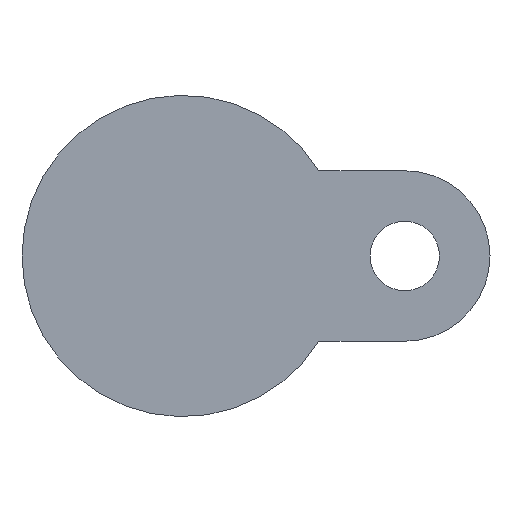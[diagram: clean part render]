
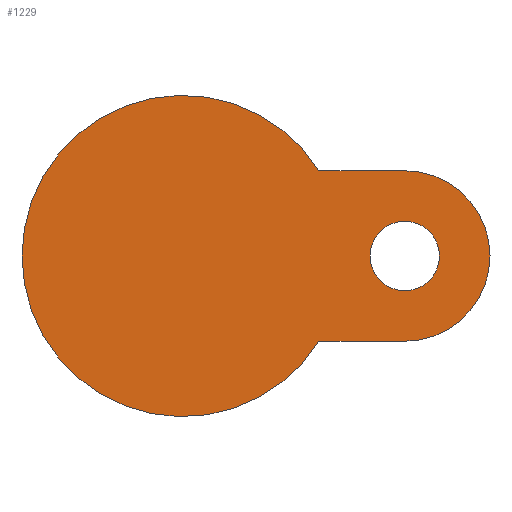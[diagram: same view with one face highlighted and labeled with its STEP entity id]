
A CAD part, front view. The second image highlights one B-rep face of the part: STEP entity #1229.
In plain terms, the highlighted planar face has unit normal (0, -1, 0).
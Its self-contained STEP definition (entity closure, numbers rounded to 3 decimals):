
#20 = CARTESIAN_POINT ( 'NONE',  ( 0., -23., 0. ) ) ;
#47 = DIRECTION ( 'NONE',  ( 0., 1., 0. ) ) ;
#65 = EDGE_CURVE ( 'NONE', #1249, #401, #1277, .T. ) ;
#73 = CARTESIAN_POINT ( 'NONE',  ( 56., -23., 0. ) ) ;
#81 = DIRECTION ( 'NONE',  ( 1., 0., 0. ) ) ;
#106 = DIRECTION ( 'NONE',  ( 1., 0., 0. ) ) ;
#141 = EDGE_CURVE ( 'NONE', #882, #200, #1300, .T. ) ;
#157 = CIRCLE ( 'NONE', #1010, 40.5 ) ;
#163 = CARTESIAN_POINT ( 'NONE',  ( 56., -23., 21.5 ) ) ;
#187 = EDGE_LOOP ( 'NONE', ( #277, #1259 ) ) ;
#189 = EDGE_LOOP ( 'NONE', ( #1325, #760, #1337, #1011 ) ) ;
#200 = VERTEX_POINT ( 'NONE', #286 ) ;
#245 = PLANE ( 'NONE',  #833 ) ;
#277 = ORIENTED_EDGE ( 'NONE', *, *, #980, .T. ) ;
#278 = DIRECTION ( 'NONE',  ( 0., -1., 0. ) ) ;
#286 = CARTESIAN_POINT ( 'NONE',  ( 47.25, -23., 0. ) ) ;
#336 = LINE ( 'NONE', #673, #359 ) ;
#352 = CARTESIAN_POINT ( 'NONE',  ( 30.5, -23., -21.5 ) ) ;
#353 = VECTOR ( 'NONE', #370, 1000. ) ;
#359 = VECTOR ( 'NONE', #81, 1000. ) ;
#370 = DIRECTION ( 'NONE',  ( -1., 0., 0. ) ) ;
#401 = VERTEX_POINT ( 'NONE', #866 ) ;
#402 = VERTEX_POINT ( 'NONE', #406 ) ;
#406 = CARTESIAN_POINT ( 'NONE',  ( 34.322, -23., 21.5 ) ) ;
#460 = AXIS2_PLACEMENT_3D ( 'NONE', #1413, #582, #727 ) ;
#528 = CARTESIAN_POINT ( 'NONE',  ( 56., -23., -21.5 ) ) ;
#582 = DIRECTION ( 'NONE',  ( 0., 1., 0. ) ) ;
#594 = DIRECTION ( 'NONE',  ( 0., -1., 0. ) ) ;
#673 = CARTESIAN_POINT ( 'NONE',  ( 30.5, -23., 21.5 ) ) ;
#727 = DIRECTION ( 'NONE',  ( -1., 0., 0. ) ) ;
#739 = VERTEX_POINT ( 'NONE', #163 ) ;
#749 = CARTESIAN_POINT ( 'NONE',  ( 64.75, -23., 0. ) ) ;
#760 = ORIENTED_EDGE ( 'NONE', *, *, #65, .F. ) ;
#811 = DIRECTION ( 'NONE',  ( 1., 0., 0. ) ) ;
#826 = FACE_BOUND ( 'NONE', #187, .T. ) ;
#833 = AXIS2_PLACEMENT_3D ( 'NONE', #1169, #278, #1335 ) ;
#866 = CARTESIAN_POINT ( 'NONE',  ( 34.322, -23., -21.5 ) ) ;
#882 = VERTEX_POINT ( 'NONE', #749 ) ;
#980 = EDGE_CURVE ( 'NONE', #200, #882, #1072, .T. ) ;
#1010 = AXIS2_PLACEMENT_3D ( 'NONE', #20, #594, #811 ) ;
#1011 = ORIENTED_EDGE ( 'NONE', *, *, #1073, .F. ) ;
#1071 = EDGE_CURVE ( 'NONE', #739, #1249, #1268, .T. ) ;
#1072 = CIRCLE ( 'NONE', #1398, 8.75 ) ;
#1073 = EDGE_CURVE ( 'NONE', #402, #739, #336, .T. ) ;
#1118 = DIRECTION ( 'NONE',  ( 0., 1., 0. ) ) ;
#1143 = CARTESIAN_POINT ( 'NONE',  ( 56., -23., 0. ) ) ;
#1169 = CARTESIAN_POINT ( 'NONE',  ( 40.5, -23., 0. ) ) ;
#1229 = ADVANCED_FACE ( 'NONE', ( #826, #1289 ), #245, .T. ) ;
#1249 = VERTEX_POINT ( 'NONE', #528 ) ;
#1259 = ORIENTED_EDGE ( 'NONE', *, *, #141, .T. ) ;
#1268 = CIRCLE ( 'NONE', #1368, 21.5 ) ;
#1277 = LINE ( 'NONE', #352, #353 ) ;
#1289 = FACE_OUTER_BOUND ( 'NONE', #189, .T. ) ;
#1300 = CIRCLE ( 'NONE', #460, 8.75 ) ;
#1325 = ORIENTED_EDGE ( 'NONE', *, *, #1463, .T. ) ;
#1329 = DIRECTION ( 'NONE',  ( -1., 0., 0. ) ) ;
#1335 = DIRECTION ( 'NONE',  ( 1., 0., 0. ) ) ;
#1337 = ORIENTED_EDGE ( 'NONE', *, *, #1071, .F. ) ;
#1368 = AXIS2_PLACEMENT_3D ( 'NONE', #1143, #1118, #106 ) ;
#1398 = AXIS2_PLACEMENT_3D ( 'NONE', #73, #47, #1329 ) ;
#1413 = CARTESIAN_POINT ( 'NONE',  ( 56., -23., 0. ) ) ;
#1463 = EDGE_CURVE ( 'NONE', #402, #401, #157, .T. ) ;
